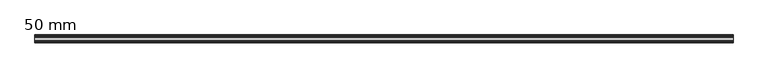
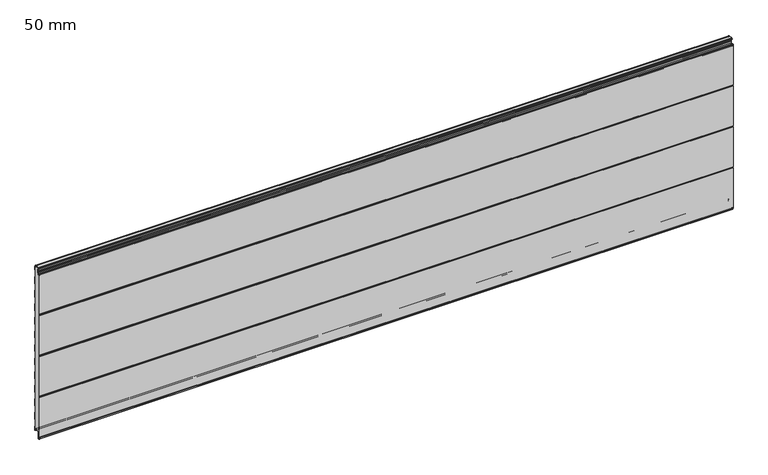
"""IFC4 building model written with IfcOpenShell, lengths in millimetres: plate geometry, HIANSA PANEL - H20.F05.003-HFM-PANELES DE FACHADA HOR - PANEL SEMILISO - Panel de Muro Cortina : 50 mm."""

from ifc_helpers import new_model, si_unit, point, frame, frame_2d, origin, place, context, project, spatial, polyline, circle_curve, trimmed, segment, composite_curve, outline, extrude, source, transform, mapped, element, save


def plate_50_mm_0d95fa54(model_context):
    return source(origin(), model_context, "Body", "SweptSolid", [
        extrude(outline(polyline([(-33.7988607, 1122.7800953), (-33.0080812, 1123.2810465), (-13.7002601, 1123.2810465), (-12.8994274, 1122.7800953), (-33.7988607, 1122.7800953)])), frame((-2200.0, 0.0, 0.0), z_axis=(1.0, 0.0, 0.0), x_axis=(0.0, 1.0, 0.0)), (0.0, 0.0, 1.0), 4400.0),
        extrude(outline(polyline([(-33.7713844, 25.3200953), (-12.9220626, 25.3200953), (-13.7002597, 24.8210465), (-33.011032, 24.8210465), (-33.7713844, 25.3200953)])), frame((-2200.0, 0.0, 0.0), z_axis=(1.0, 0.0, 0.0), x_axis=(0.0, 1.0, 0.0)), (0.0, 0.0, 1.0), 4400.0),
        extrude(outline(composite_curve([segment(polyline([(-49.9990488, 261.2060325), (-48.4829198, 265.1645587), (-49.9990488, 269.1230849), (-49.9990488, 536.2060325), (-48.4829198, 540.1645587), (-49.9990488, 544.1230849), (-49.9990488, 811.2060325), (-48.4829198, 815.1645587), (-49.9990488, 819.1230849), (-49.9990488, 1086.1667807), (-49.3593999, 1088.7253764)]), True, "CONTINUOUS"), segment(trimmed(circle_curve(frame_2d((-47.5161291, 1088.2645587)), 1.9), [point((-49.3593999, 1088.7253764))], [point((-47.5161291, 1090.1645587))], False, "CARTESIAN"), True, "CONTINUOUS"), segment(polyline([(-47.5161291, 1090.1645587), (-45.3767084, 1090.1645587)]), True, "CONTINUOUS"), segment(trimmed(circle_curve(frame_2d((-45.3767084, 1089.1645587)), 1.0), [point((-45.3767084, 1090.1645587))], [point((-44.3767084, 1089.1645587))], False, "CARTESIAN"), True, "CONTINUOUS"), segment(polyline([(-44.3767084, 1089.1645587), (-44.3767084, 1079.2490488)]), True, "CONTINUOUS"), segment(trimmed(circle_curve(frame_2d((-43.3767084, 1079.2490488)), 1.0), [point((-44.3767084, 1079.2490488))], [point((-43.3767084, 1078.2490488))], True, "CARTESIAN"), True, "CONTINUOUS"), segment(polyline([(-43.3767084, 1078.2490488), (-39.1267084, 1078.2490488)]), True, "CONTINUOUS"), segment(trimmed(circle_curve(frame_2d((-39.1267084, 1079.2490488)), 1.0), [point((-39.1267084, 1078.2490488))], [point((-38.1267084, 1079.2490488))], True, "CARTESIAN"), True, "CONTINUOUS"), segment(polyline([(-38.1267084, 1079.2490488), (-38.1267084, 1082.1003519)]), True, "CONTINUOUS"), segment(trimmed(circle_curve(frame_2d((-36.1267084, 1082.1003519)), 2.0), [point((-38.1267084, 1082.1003519))], [point((-37.2738613, 1083.738656))], False, "CARTESIAN"), True, "CONTINUOUS"), segment(polyline([(-37.2738613, 1083.738656), (-31.2163437, 1087.9801754)]), True, "CONTINUOUS"), segment(trimmed(circle_curve(frame_2d((-32.0767084, 1089.2089035)), 1.5), [point((-31.2163437, 1087.9801754))], [point((-30.5767084, 1089.2089035))], True, "CARTESIAN"), True, "CONTINUOUS"), segment(polyline([(-30.5767084, 1089.2089035), (-30.5767084, 1098.4402031), (-29.6767084, 1099.9990488), (-30.5767084, 1101.5578945), (-30.5767084, 1110.7891941)]), True, "CONTINUOUS"), segment(trimmed(circle_curve(frame_2d((-32.0767084, 1110.7891941)), 1.5), [point((-30.5767084, 1110.7891941))], [point((-31.2163437, 1112.0179221))], True, "CARTESIAN"), True, "CONTINUOUS"), segment(polyline([(-31.2163437, 1112.0179221), (-37.2738613, 1116.2594416)]), True, "CONTINUOUS"), segment(trimmed(circle_curve(frame_2d((-36.1267084, 1117.8977457)), 2.0), [point((-37.2738613, 1116.2594416))], [point((-38.1267084, 1117.8977457))], False, "CARTESIAN"), True, "CONTINUOUS"), segment(polyline([(-38.1267084, 1117.8977457), (-38.1267084, 1121.2800953)]), True, "CONTINUOUS"), segment(trimmed(circle_curve(frame_2d((-36.1267084, 1121.2800953)), 2.0), [point((-38.1267084, 1121.2800953))], [point((-36.1267084, 1123.2800953))], False, "CARTESIAN"), True, "CONTINUOUS"), segment(polyline([(-36.1267084, 1123.2800953), (-33.0095828, 1123.2800953), (-33.7988607, 1122.7800953), (-36.1267084, 1122.7800953)]), True, "CONTINUOUS"), segment(trimmed(circle_curve(frame_2d((-36.1267084, 1121.2800953)), 1.5), [point((-36.1267084, 1122.7800953))], [point((-37.6267084, 1121.2800953))], True, "CARTESIAN"), True, "CONTINUOUS"), segment(polyline([(-37.6267084, 1121.2800953), (-37.6267084, 1117.8977457)]), True, "CONTINUOUS"), segment(trimmed(circle_curve(frame_2d((-36.1267084, 1117.8977457)), 1.5), [point((-37.6267084, 1117.8977457))], [point((-36.987073, 1116.6690176))], True, "CARTESIAN"), True, "CONTINUOUS"), segment(polyline([(-36.987073, 1116.6690176), (-30.9295555, 1112.4274982)]), True, "CONTINUOUS"), segment(trimmed(circle_curve(frame_2d((-32.0767084, 1110.7891941)), 2.0), [point((-30.9295555, 1112.4274982))], [point((-30.0767084, 1110.7891941))], False, "CARTESIAN"), True, "CONTINUOUS"), segment(polyline([(-30.0767084, 1110.7891941), (-30.0767084, 1101.6918691), (-29.3880333, 1100.4990488)]), True, "CONTINUOUS"), segment(trimmed(circle_curve(frame_2d((-30.2540587, 1099.9990488)), 1.0), [point((-29.3880333, 1100.4990488))], [point((-29.3880333, 1099.4990488))], False, "CARTESIAN"), True, "CONTINUOUS"), segment(polyline([(-29.3880333, 1099.4990488), (-30.0767084, 1098.3062285), (-30.0767084, 1089.2089035)]), True, "CONTINUOUS"), segment(trimmed(circle_curve(frame_2d((-32.0767084, 1089.2089035)), 2.0), [point((-30.0767084, 1089.2089035))], [point((-30.9295555, 1087.5705994))], False, "CARTESIAN"), True, "CONTINUOUS"), segment(polyline([(-30.9295555, 1087.5705994), (-36.987073, 1083.32908)]), True, "CONTINUOUS"), segment(trimmed(circle_curve(frame_2d((-36.1267084, 1082.1003519)), 1.5), [point((-36.987073, 1083.32908))], [point((-37.6267084, 1082.1003519))], True, "CARTESIAN"), True, "CONTINUOUS"), segment(polyline([(-37.6267084, 1082.1003519), (-37.6267084, 1079.2490488)]), True, "CONTINUOUS"), segment(trimmed(circle_curve(frame_2d((-39.1267084, 1079.2490488)), 1.5), [point((-37.6267084, 1079.2490488))], [point((-39.1267084, 1077.7490488))], False, "CARTESIAN"), True, "CONTINUOUS"), segment(polyline([(-39.1267084, 1077.7490488), (-43.3767084, 1077.7490488)]), True, "CONTINUOUS"), segment(trimmed(circle_curve(frame_2d((-43.3767084, 1079.2490488)), 1.5), [point((-43.3767084, 1077.7490488))], [point((-44.8767084, 1079.2490488))], False, "CARTESIAN"), True, "CONTINUOUS"), segment(polyline([(-44.8767084, 1079.2490488), (-44.8767084, 1089.6645587), (-47.5161291, 1089.6645587)]), True, "CONTINUOUS"), segment(trimmed(circle_curve(frame_2d((-47.5161291, 1088.2645587)), 1.4), [point((-47.5161291, 1089.6645587))], [point((-48.8743286, 1088.6041086))], True, "CARTESIAN"), True, "CONTINUOUS"), segment(polyline([(-48.8743286, 1088.6041086), (-49.4990488, 1086.1052279), (-49.4990488, 819.2053746), (-47.9514025, 815.1645587), (-49.4990488, 811.1237428), (-49.4990488, 544.2053746), (-47.9514025, 540.1645587), (-49.4990488, 536.1237428), (-49.4990488, 269.2053746), (-47.9514025, 265.1645587), (-49.4990488, 261.1237428), (-49.4990488, -5.7761105), (-48.8741312, -8.2757808)]), True, "CONTINUOUS"), segment(trimmed(circle_curve(frame_2d((-47.5169431, -7.9364838)), 1.3989577), [point((-48.8741312, -8.2757808))], [point((-47.5169431, -9.3354415))], True, "CARTESIAN"), True, "CONTINUOUS"), segment(polyline([(-47.5169431, -9.3354415), (-45.1267084, -9.3354413)]), True, "CONTINUOUS"), segment(trimmed(circle_curve(frame_2d((-45.1267084, -10.8354413)), 1.5), [point((-45.1267084, -9.3354413))], [point((-43.6267084, -10.8354413))], False, "CARTESIAN"), True, "CONTINUOUS"), segment(polyline([(-43.6267084, -10.8354413), (-43.6267084, -20.7509512), (-38.8767084, -20.7509512), (-38.8767084, 22.7800953)]), True, "CONTINUOUS"), segment(trimmed(circle_curve(frame_2d((-36.3367084, 22.7800953)), 2.54), [point((-38.8767084, 22.7800953))], [point((-36.3367084, 25.3200953))], False, "CARTESIAN"), True, "CONTINUOUS"), segment(polyline([(-36.3367084, 25.3200953), (-33.7713844, 25.3200953), (-33.0095828, 24.8200953), (-36.3367084, 24.8200953)]), True, "CONTINUOUS"), segment(trimmed(circle_curve(frame_2d((-36.3367084, 22.7800953)), 2.04), [point((-36.3367084, 24.8200953))], [point((-38.3767084, 22.7800953))], True, "CARTESIAN"), True, "CONTINUOUS"), segment(polyline([(-38.3767084, 22.7800953), (-38.3767084, -20.2509512)]), True, "CONTINUOUS"), segment(trimmed(circle_curve(frame_2d((-39.3767084, -20.2509512)), 1.0), [point((-38.3767084, -20.2509512))], [point((-39.3767084, -21.2509512))], False, "CARTESIAN"), True, "CONTINUOUS"), segment(polyline([(-39.3767084, -21.2509512), (-43.1267084, -21.2509512)]), True, "CONTINUOUS"), segment(trimmed(circle_curve(frame_2d((-43.1267084, -20.2509512)), 1.0), [point((-43.1267084, -21.2509512))], [point((-44.1267084, -20.2509512))], False, "CARTESIAN"), True, "CONTINUOUS"), segment(polyline([(-44.1267084, -20.2509512), (-44.1267084, -10.8354413)]), True, "CONTINUOUS"), segment(trimmed(circle_curve(frame_2d((-45.1267084, -10.8354413)), 1.0), [point((-44.1267084, -10.8354413))], [point((-45.1267084, -9.8354413))], True, "CARTESIAN"), True, "CONTINUOUS"), segment(polyline([(-45.1267084, -9.8354413), (-47.5161291, -9.8354413)]), True, "CONTINUOUS"), segment(trimmed(circle_curve(frame_2d((-47.5161291, -7.9354413)), 1.9), [point((-47.5161291, -9.8354413))], [point((-49.3593999, -8.396259))], False, "CARTESIAN"), True, "CONTINUOUS"), segment(polyline([(-49.3593999, -8.396259), (-49.9990488, -5.8376633), (-49.9990488, 261.2060325)]), True, "CONTINUOUS")], self_intersect=False)), frame((-2200.0, 0.0, 0.0), z_axis=(1.0, 0.0, 0.0), x_axis=(0.0, 1.0, 0.0)), (0.0, 0.0, 1.0), 4400.0),
        extrude(outline(composite_curve([segment(polyline([(-49.4927405, -5.8041988), (-49.4927405, 261.1436493), (-47.9523542, 265.16551), (-49.5000005, 269.2063259), (-49.5000005, 536.1246941), (-47.9523542, 540.16551), (-49.5000005, 544.2063259), (-49.5000005, 811.1246941), (-47.9523542, 815.16551), (-49.4927405, 819.1873707), (-49.4927405, 1086.1352189), (-48.8752803, 1088.6050599)]), True, "CONTINUOUS"), segment(trimmed(circle_curve(frame_2d((-47.5170808, 1088.26551)), 1.4), [point((-48.8752803, 1088.6050599))], [point((-47.5170808, 1089.66551))], False, "CARTESIAN"), True, "CONTINUOUS"), segment(polyline([(-47.5170808, 1089.66551), (-44.8776601, 1089.66551), (-44.8776601, 1079.2500001)]), True, "CONTINUOUS"), segment(trimmed(circle_curve(frame_2d((-43.3776601, 1079.2500001)), 1.5), [point((-44.8776601, 1079.2500001))], [point((-43.3776601, 1077.7500001))], True, "CARTESIAN"), True, "CONTINUOUS"), segment(polyline([(-43.3776601, 1077.7500001), (-39.1276601, 1077.7500001)]), True, "CONTINUOUS"), segment(trimmed(circle_curve(frame_2d((-39.1276601, 1079.2500001)), 1.5), [point((-39.1276601, 1077.7500001))], [point((-37.6276601, 1079.2500001))], True, "CARTESIAN"), True, "CONTINUOUS"), segment(polyline([(-37.6276601, 1079.2500001), (-37.6276601, 1082.1013032)]), True, "CONTINUOUS"), segment(trimmed(circle_curve(frame_2d((-36.1276601, 1082.1013032)), 1.5), [point((-37.6276601, 1082.1013032))], [point((-36.9880247, 1083.3300313))], False, "CARTESIAN"), True, "CONTINUOUS"), segment(polyline([(-36.9880247, 1083.3300313), (-30.9305072, 1087.5715507)]), True, "CONTINUOUS"), segment(trimmed(circle_curve(frame_2d((-32.0776601, 1089.2098548)), 2.0), [point((-30.9305072, 1087.5715507))], [point((-30.0776601, 1089.2098548))], True, "CARTESIAN"), True, "CONTINUOUS"), segment(polyline([(-30.0776601, 1089.2098548), (-30.0776601, 1098.3071798), (-29.3889849, 1099.5000001)]), True, "CONTINUOUS"), segment(trimmed(circle_curve(frame_2d((-30.2550103, 1100.0000001)), 1.0), [point((-29.3889849, 1099.5000001))], [point((-29.3889849, 1100.5000001))], True, "CARTESIAN"), True, "CONTINUOUS"), segment(polyline([(-29.3889849, 1100.5000001), (-30.0776601, 1101.6928204), (-30.0776601, 1110.7901454)]), True, "CONTINUOUS"), segment(trimmed(circle_curve(frame_2d((-32.0776601, 1110.7901454)), 2.0), [point((-30.0776601, 1110.7901454))], [point((-30.9305072, 1112.4284495))], True, "CARTESIAN"), True, "CONTINUOUS"), segment(polyline([(-30.9305072, 1112.4284495), (-36.9880247, 1116.6699689)]), True, "CONTINUOUS"), segment(trimmed(circle_curve(frame_2d((-36.1276601, 1117.898697)), 1.5), [point((-36.9880247, 1116.6699689))], [point((-37.6276601, 1117.898697))], False, "CARTESIAN"), True, "CONTINUOUS"), segment(polyline([(-37.6276601, 1117.898697), (-37.6276601, 1121.2810466)]), True, "CONTINUOUS"), segment(trimmed(circle_curve(frame_2d((-36.1276601, 1121.2810466)), 1.5), [point((-37.6276601, 1121.2810466))], [point((-36.1276601, 1122.7810466))], False, "CARTESIAN"), True, "CONTINUOUS"), segment(polyline([(-36.1276601, 1122.7810466), (-7.7500005, 1122.7810466)]), True, "CONTINUOUS"), segment(trimmed(circle_curve(frame_2d((-7.7500005, 1121.7810466)), 1.0), [point((-7.7500005, 1122.7810466))], [point((-6.7500005, 1121.7810466))], False, "CARTESIAN"), True, "CONTINUOUS"), segment(polyline([(-6.7500005, 1121.7810466), (-6.7500005, 1115.631732)]), True, "CONTINUOUS"), segment(trimmed(circle_curve(frame_2d((-4.7460005, 1115.631732)), 2.004), [point((-6.7500005, 1115.631732))], [point((-4.7460005, 1113.627732))], True, "CARTESIAN"), True, "CONTINUOUS"), segment(polyline([(-4.7460005, 1113.627732), (-1.5, 1113.627732)]), True, "CONTINUOUS"), segment(trimmed(circle_curve(frame_2d((-1.5, 1112.627732)), 1.0), [point((-1.5, 1113.627732))], [point((-0.5, 1112.627732))], False, "CARTESIAN"), True, "CONTINUOUS"), segment(polyline([(-0.5, 1112.627732), (-0.5, 1087.7488722), (-1.5000005, 1084.7488708), (-1.5000005, 1044.5865932), (-0.5000005, 1041.5865932), (-0.5000005, 996.7488708), (-1.5000005, 993.7488708), (-1.5000005, 953.5865932), (-0.5000005, 950.5865932), (-0.5000005, 905.7488708), (-1.5000005, 902.7488708), (-1.5000005, 862.5865932), (-0.5000005, 859.5865932), (-0.5000005, 814.7488708), (-1.5000005, 811.7488708), (-1.5000005, 771.5865932), (-0.5000005, 768.5865932), (-0.5000005, 723.7488708), (-1.5000005, 720.7488708), (-1.5000005, 680.5865932), (-0.5000005, 677.5865932), (-0.5000005, 632.7488708), (-1.5000005, 629.7488708), (-1.5000005, 589.5865932), (-0.5000005, 586.5865932), (-0.5000005, 541.7488708), (-1.5000005, 538.7488708), (-1.5000005, 498.5865932), (-0.5000005, 495.5865932), (-0.5000005, 450.7488708), (-1.5000005, 447.7488708), (-1.5000005, 407.5865932), (-0.5000005, 404.5865932), (-0.5000005, 359.7488708), (-1.5000005, 356.7488708), (-1.5000005, 316.5865932), (-0.5000005, 313.5865932), (-0.5000005, 268.7488708), (-1.5000005, 265.7488708), (-1.5000005, 225.5865932), (-0.5000005, 222.5865932), (-0.5000005, 177.7488708), (-1.5000005, 174.7488708), (-1.5000005, 134.5865932), (-0.5000005, 131.5865932), (-0.5000005, 86.7488708), (-1.5000005, 83.7488708), (-1.5000005, 43.5865932), (-0.5, 40.5865932), (-0.5, 15.6677319)]), True, "CONTINUOUS"), segment(trimmed(circle_curve(frame_2d((-1.4999997, 15.6677319)), 0.9999997), [point((-0.5, 15.6677319))], [point((-1.4999977, 14.6677322))], False, "CARTESIAN"), True, "CONTINUOUS"), segment(polyline([(-1.4999977, 14.6677322), (-4.4999978, 14.6677261)]), True, "CONTINUOUS"), segment(trimmed(circle_curve(frame_2d((-4.4999998, 15.6677321)), 1.0000061), [point((-4.4999978, 14.6677261))], [point((-5.5000059, 15.6677321))], False, "CARTESIAN"), True, "CONTINUOUS"), segment(polyline([(-5.5000059, 15.6677321), (-5.5000059, 23.2810466)]), True, "CONTINUOUS"), segment(trimmed(circle_curve(frame_2d((-7.540006, 23.2810466)), 2.0400002), [point((-5.5000059, 23.2810466))], [point((-7.540006, 25.3210467))], True, "CARTESIAN"), True, "CONTINUOUS"), segment(polyline([(-7.540006, 25.3210467), (-36.3376599, 25.3210467)]), True, "CONTINUOUS"), segment(trimmed(circle_curve(frame_2d((-36.3376599, 22.7810466)), 2.5400001), [point((-36.3376599, 25.3210467))], [point((-38.8776601, 22.7810466))], True, "CARTESIAN"), True, "CONTINUOUS"), segment(polyline([(-38.8776601, 22.7810466), (-38.8776601, -20.7499999), (-43.6276601, -20.7499999), (-43.6276601, -10.83449)]), True, "CONTINUOUS"), segment(trimmed(circle_curve(frame_2d((-45.1276601, -10.83449)), 1.5), [point((-43.6276601, -10.83449))], [point((-45.1276601, -9.33449))], True, "CARTESIAN"), True, "CONTINUOUS"), segment(polyline([(-45.1276601, -9.33449), (-47.5178947, -9.33449)]), True, "CONTINUOUS"), segment(trimmed(circle_curve(frame_2d((-47.5178947, -7.9355324)), 1.3989576), [point((-47.5178947, -9.33449))], [point((-48.8750829, -8.2748295))], False, "CARTESIAN"), True, "CONTINUOUS"), segment(polyline([(-48.8750829, -8.2748295), (-49.4927405, -5.8041988)]), True, "CONTINUOUS")], self_intersect=False)), frame((-2200.0, 0.0, 0.0), z_axis=(1.0, 0.0, 0.0), x_axis=(0.0, 1.0, 0.0)), (0.0, 0.0, 1.0), 4400.0),
        extrude(outline(composite_curve([segment(polyline([(-13.7002597, 24.8210465), (-12.9205793, 25.3210465), (-7.5400057, 25.3210465)]), True, "CONTINUOUS"), segment(trimmed(circle_curve(frame_2d((-7.5400057, 23.2810465)), 2.04), [point((-7.5400057, 25.3210465))], [point((-5.5000057, 23.2810465))], False, "CARTESIAN"), True, "CONTINUOUS"), segment(polyline([(-5.5000057, 23.2810465), (-5.5000057, 15.6677319)]), True, "CONTINUOUS"), segment(trimmed(circle_curve(frame_2d((-4.5, 15.6677319)), 1.0000057), [point((-5.5000057, 15.6677319))], [point((-4.4999981, 14.6677262))], True, "CARTESIAN"), True, "CONTINUOUS"), segment(polyline([(-4.4999981, 14.6677262), (-1.4999981, 14.6677319)]), True, "CONTINUOUS"), segment(trimmed(circle_curve(frame_2d((-1.5, 15.6677319)), 1.0), [point((-1.4999981, 14.6677319))], [point((-0.5, 15.6677319))], True, "CARTESIAN"), True, "CONTINUOUS"), segment(polyline([(-0.5, 15.6677319), (-0.5, 40.5865931), (-1.5, 43.5865931), (-1.5, 83.7488708), (-0.5, 86.7488708), (-0.5, 131.5865931), (-1.5, 134.5865931), (-1.5, 174.7488708), (-0.5, 177.7488708), (-0.5, 222.5865931), (-1.5, 225.5865931), (-1.5, 265.7488708), (-0.5, 268.7488708), (-0.5, 313.5865931), (-1.5, 316.5865931), (-1.5, 356.7488708), (-0.5, 359.7488708), (-0.5, 404.5865931), (-1.5, 407.5865931), (-1.5, 447.7488708), (-0.5, 450.7488708), (-0.5, 495.5865931), (-1.5, 498.5865931), (-1.5, 538.7488708), (-0.5, 541.7488708), (-0.5, 586.5865931), (-1.5, 589.5865931), (-1.5, 629.7488708), (-0.5, 632.7488708), (-0.5, 677.5865931), (-1.5, 680.5865931), (-1.5, 720.7488708), (-0.5, 723.7488708), (-0.5, 768.5865931), (-1.5, 771.5865931), (-1.5, 811.7488708), (-0.5, 814.7488708), (-0.5, 859.5865931), (-1.5, 862.5865931), (-1.5, 902.7488708), (-0.5, 905.7488708), (-0.5, 950.5865931), (-1.5, 953.5865931), (-1.5, 993.7488708), (-0.5, 996.7488708), (-0.5, 1041.5865931), (-1.5, 1044.5865931), (-1.5, 1084.7488708), (-0.5, 1087.7488708), (-0.5, 1112.6277319)]), True, "CONTINUOUS"), segment(trimmed(circle_curve(frame_2d((-1.5, 1112.6277319)), 1.0), [point((-0.5, 1112.6277319))], [point((-1.5, 1113.6277319))], True, "CARTESIAN"), True, "CONTINUOUS"), segment(polyline([(-1.5, 1113.6277319), (-4.746, 1113.6277319)]), True, "CONTINUOUS"), segment(trimmed(circle_curve(frame_2d((-4.746, 1115.6317319)), 2.004), [point((-4.746, 1113.6277319))], [point((-6.75, 1115.6317319))], False, "CARTESIAN"), True, "CONTINUOUS"), segment(polyline([(-6.75, 1115.6317319), (-6.75, 1121.7810465)]), True, "CONTINUOUS"), segment(trimmed(circle_curve(frame_2d((-7.75, 1121.7810465)), 1.0), [point((-6.75, 1121.7810465))], [point((-7.75, 1122.7810465))], True, "CARTESIAN"), True, "CONTINUOUS"), segment(polyline([(-7.75, 1122.7810465), (-12.9009477, 1122.7810465), (-13.7002597, 1123.2810465), (-7.7500057, 1123.2810465)]), True, "CONTINUOUS"), segment(trimmed(circle_curve(frame_2d((-7.7500057, 1121.7810465)), 1.5), [point((-7.7500057, 1123.2810465))], [point((-6.2500057, 1121.7810465))], False, "CARTESIAN"), True, "CONTINUOUS"), segment(polyline([(-6.2500057, 1121.7810465), (-6.2500057, 1115.631727)]), True, "CONTINUOUS"), segment(trimmed(circle_curve(frame_2d((-4.7460057, 1115.631727)), 1.504), [point((-6.2500057, 1115.631727))], [point((-4.7460034, 1114.127727))], True, "CARTESIAN"), True, "CONTINUOUS"), segment(polyline([(-4.7460034, 1114.127727), (-1.5000023, 1114.1277319)]), True, "CONTINUOUS"), segment(trimmed(circle_curve(frame_2d((-1.5, 1112.6277319)), 1.5), [point((-1.5000023, 1114.1277319))], [point((0.0, 1112.6277319))], False, "CARTESIAN"), True, "CONTINUOUS"), segment(polyline([(0.0, 1112.6277319), (0.0, 1087.6677319), (-1.0, 1084.6677319), (-1.0, 1044.6677319), (0.0, 1041.6677319), (0.0, 996.6677319), (-1.0, 993.6677319), (-1.0, 953.6677319), (0.0, 950.6677319), (0.0, 905.6677319), (-1.0, 902.6677319), (-1.0, 862.6677319), (0.0, 859.6677319), (0.0, 814.6677319), (-1.0, 811.6677319), (-1.0, 771.6677319), (0.0, 768.6677319), (0.0, 723.6677319), (-1.0, 720.6677319), (-1.0, 680.6677319), (0.0, 677.6677319), (0.0, 632.6677319), (-1.0, 629.6677319), (-1.0, 589.6677319), (0.0, 586.6677319), (0.0, 541.6677319), (-1.0, 538.6677319), (-1.0, 498.6677319), (0.0, 495.6677319), (0.0, 450.6677319), (-1.0, 447.6677319), (-1.0, 407.6677319), (0.0, 404.6677319), (0.0, 359.6677319), (-1.0, 356.6677319), (-1.0, 316.6677319), (0.0, 313.6677319), (0.0, 268.6677319), (-1.0, 265.6677319), (-1.0, 225.6677319), (0.0, 222.6677319), (0.0, 177.6677319), (-1.0, 174.6677319), (-1.0, 134.6677319), (0.0, 131.6677319), (0.0, 86.6677319), (-1.0, 83.6677319), (-1.0, 43.6677319), (0.0, 40.6677319), (0.0, 15.6677319)]), True, "CONTINUOUS"), segment(trimmed(circle_curve(frame_2d((-1.5, 15.6677319)), 1.5), [point((0.0, 15.6677319))], [point((-1.5, 14.1677319))], False, "CARTESIAN"), True, "CONTINUOUS"), segment(polyline([(-1.5, 14.1677319), (-4.5, 14.1677319)]), True, "CONTINUOUS"), segment(trimmed(circle_curve(frame_2d((-4.5, 15.6677319)), 1.5), [point((-4.5, 14.1677319))], [point((-6.0, 15.6677319))], False, "CARTESIAN"), True, "CONTINUOUS"), segment(polyline([(-6.0, 15.6677319), (-6.0, 23.2810465)]), True, "CONTINUOUS"), segment(trimmed(circle_curve(frame_2d((-7.54, 23.2810465)), 1.54), [point((-6.0, 23.2810465))], [point((-7.54, 24.8210465))], True, "CARTESIAN"), True, "CONTINUOUS"), segment(polyline([(-7.54, 24.8210465), (-13.7002597, 24.8210465)]), True, "CONTINUOUS")], self_intersect=False)), frame((-2200.0, 0.0, 0.0), z_axis=(1.0, 0.0, 0.0), x_axis=(0.0, 1.0, 0.0)), (0.0, 0.0, 1.0), 4400.0),
    ])


if __name__ == "__main__":
    model = new_model("IFC4")
    model_context = context("Model", 3, world=origin())
    ifc_project = project(units=[si_unit("LENGTHUNIT", "METRE", prefix="MILLI")], contexts=[model_context])
    site = spatial("IfcSite", under=ifc_project)
    building = spatial("IfcBuilding", under=site)
    placement = place(None, origin())
    plate_50_mm_shape = plate_50_mm_0d95fa54(model_context)
    element("IfcPlate", 1, ObjectType="HIANSA PANEL - H20.F05.003-HFM-PANELES DE FACHADA HOR - PANEL SEMILISO - Panel de Muro Cortina : 50 mm", at=placement, inside=building, context=model_context, shape_type="MappedRepresentation", body=[
        mapped(plate_50_mm_shape, transform((0.0, 0.0, 0.0), x_axis=(1.0, 0.0, 0.0), y_axis=(0.0, 1.0, 0.0), z_axis=(0.0, 0.0, 1.0))),
    ])
    save(model, "model.ifc")
